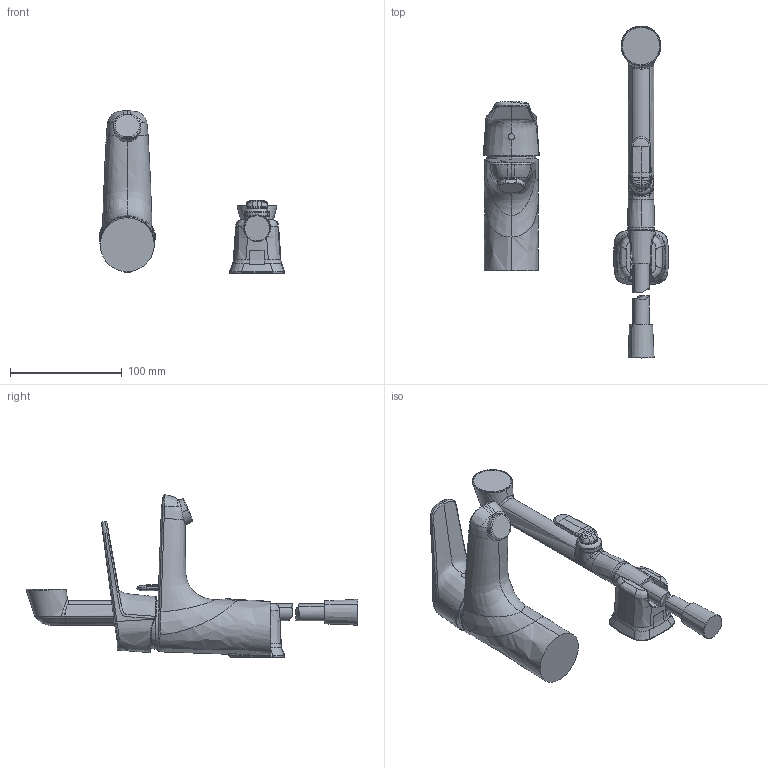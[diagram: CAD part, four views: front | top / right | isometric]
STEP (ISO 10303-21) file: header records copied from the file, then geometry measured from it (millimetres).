
FILE_DESCRIPTION (( 'STEP AP203' ), '1' );
FILE_NAME ('1812FGG(2023).STEP', '2023-10-11T06:34:48', ( '' ), ( '' ), 'SwSTEP 2.0', 'SolidWorks 2016', '' );
FILE_SCHEMA (( 'CONFIG_CONTROL_DESIGN' ));
Length unit declared in the file: millimetre
Products named in the file (1): 1812FGG(2023)
Bounding box: 165.7 x 296.68 x 145.19 mm (x, y, z)
Volume: 545761.2 mm3; surface area: 86316.9 mm2
Topology: 12 solids, 12 shells, 400 faces, 996 edges, 618 vertices
Faces by surface type: bspline 301, cylinder 30, cone 30, plane 28, torus 8, sphere 3
Entity records: 98280 total; most frequent: CARTESIAN_POINT 91353, ORIENTED_EDGE 1984, EDGE_CURVE 992, DIRECTION 625, VERTEX_POINT 618, B_SPLINE_CURVE_WITH_KNOTS 598, EDGE_LOOP 402, FACE_OUTER_BOUND 400
